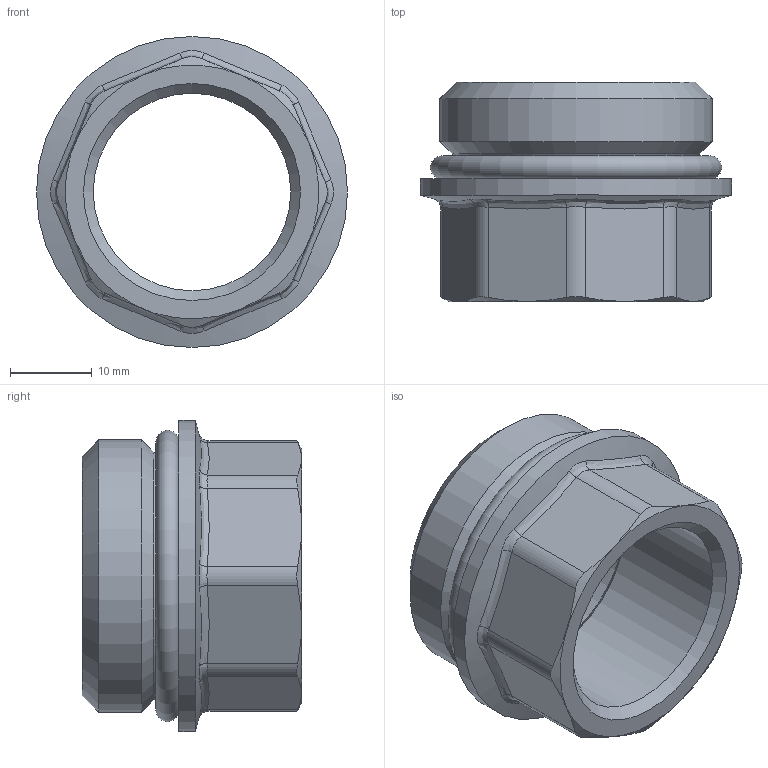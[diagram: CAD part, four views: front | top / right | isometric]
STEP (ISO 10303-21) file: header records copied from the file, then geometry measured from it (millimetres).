
FILE_DESCRIPTION(('STEP AP242'), '1');
FILE_NAME('覆.302634.088.000 捘 - VTr.585.N.0605', '', ('UNSPECIFIED'), ('UNSPECIFIED'), 'C3D Converter', 'C3D Toolkit', '');
FILE_SCHEMA(('AP242_MANAGED_MODEL_BASED_3D_ENGINEERING_MIM_LF { 1 0 10303 442 1 1 4 }'));
Length unit declared in the file: millimetre
Products named in the file (3): ВР.302634.088.000 СБ; ВР.753157.031
Assembly tree (2 placements, depth 2):
  ВР.302634.088.000 СБ
    ВР.753157.031
    (unnamed)
Bounding box: 38 x 26.8 x 38 mm (x, y, z)
Volume: 9982 mm3; surface area: 6930.6 mm2
Topology: 2 solids, 2 shells, 52 faces, 127 edges, 80 vertices
Faces by surface type: bspline 16, cylinder 13, plane 11, cone 9, torus 3
Full cylindrical faces by diameter (mm): 24.118 x1, 25.5 x1, 30 x1, 33.249 x1, 38 x1
Entity records: 3469 total; most frequent: CARTESIAN_POINT 2343, ORIENTED_EDGE 200, DIRECTION 142, EDGE_CURVE 100, B_SPLINE_CURVE_WITH_KNOTS 69, EDGE_LOOP 66, VERTEX_POINT 66, AXIS2_PLACEMENT_3D 63
